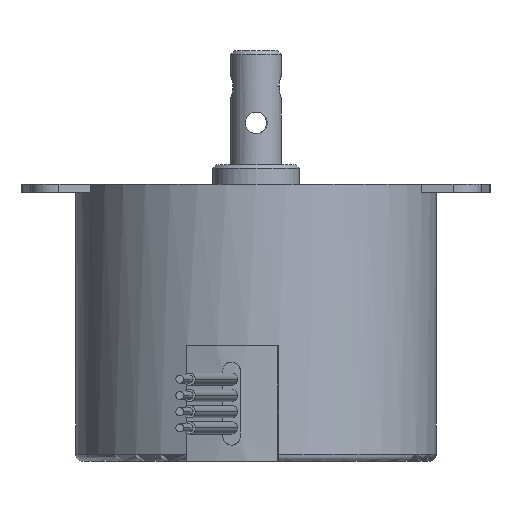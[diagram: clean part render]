
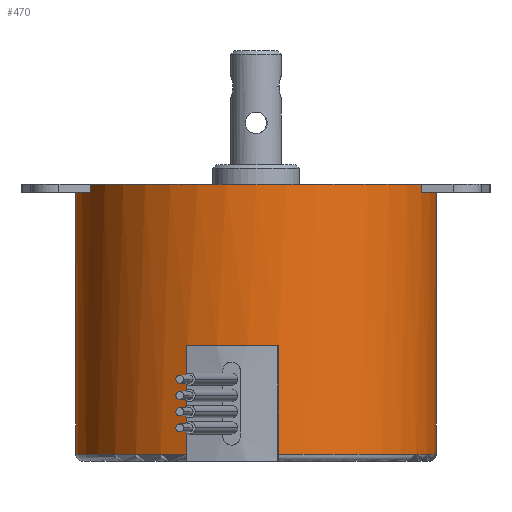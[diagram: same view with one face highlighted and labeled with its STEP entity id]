
A CAD part, front view. The second image highlights one B-rep face of the part: STEP entity #470.
In plain terms, the highlighted cylindrical face has radius 25 mm (diameter 50 mm), a partial arc.
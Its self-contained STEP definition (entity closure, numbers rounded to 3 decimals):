
#151 = ORIENTED_EDGE ( 'NONE', *, *, #277, .T. ) ;
#277 = EDGE_CURVE ( 'NONE', #351, #536, #1877, .T. ) ;
#339 = ORIENTED_EDGE ( 'NONE', *, *, #378, .T. ) ;
#340 = ORIENTED_EDGE ( 'NONE', *, *, #341, .T. ) ;
#341 = EDGE_CURVE ( 'NONE', #376, #342, #2206, .T. ) ;
#342 = VERTEX_POINT ( 'NONE', #2201 ) ;
#343 = ORIENTED_EDGE ( 'NONE', *, *, #344, .T. ) ;
#344 = EDGE_CURVE ( 'NONE', #342, #345, #2200, .T. ) ;
#345 = VERTEX_POINT ( 'NONE', #2196 ) ;
#346 = ORIENTED_EDGE ( 'NONE', *, *, #347, .F. ) ;
#347 = EDGE_CURVE ( 'NONE', #348, #345, #2195, .T. ) ;
#348 = VERTEX_POINT ( 'NONE', #2190 ) ;
#349 = ORIENTED_EDGE ( 'NONE', *, *, #350, .F. ) ;
#350 = EDGE_CURVE ( 'NONE', #351, #348, #2189, .T. ) ;
#351 = VERTEX_POINT ( 'NONE', #2185 ) ;
#376 = VERTEX_POINT ( 'NONE', #2071 ) ;
#378 = EDGE_CURVE ( 'NONE', #595, #376, #2069, .T. ) ;
#470 = ADVANCED_FACE ( 'NONE', ( #2255 ), #2690, .T. ) ;
#471 = EDGE_LOOP ( 'NONE', ( #472, #473, #476, #479, #482, #485, #339, #340, #343, #346, #349, #151 ) ) ;
#472 = ORIENTED_EDGE ( 'NONE', *, *, #535, .F. ) ;
#473 = ORIENTED_EDGE ( 'NONE', *, *, #474, .T. ) ;
#474 = EDGE_CURVE ( 'NONE', #592, #475, #2512, .T. ) ;
#475 = VERTEX_POINT ( 'NONE', #2507 ) ;
#476 = ORIENTED_EDGE ( 'NONE', *, *, #477, .F. ) ;
#477 = EDGE_CURVE ( 'NONE', #478, #475, #2506, .T. ) ;
#478 = VERTEX_POINT ( 'NONE', #2502 ) ;
#479 = ORIENTED_EDGE ( 'NONE', *, *, #480, .T. ) ;
#480 = EDGE_CURVE ( 'NONE', #478, #481, #2664, .T. ) ;
#481 = VERTEX_POINT ( 'NONE', #2659 ) ;
#482 = ORIENTED_EDGE ( 'NONE', *, *, #483, .T. ) ;
#483 = EDGE_CURVE ( 'NONE', #481, #484, #2658, .T. ) ;
#484 = VERTEX_POINT ( 'NONE', #2654 ) ;
#485 = ORIENTED_EDGE ( 'NONE', *, *, #486, .T. ) ;
#486 = EDGE_CURVE ( 'NONE', #484, #595, #2653, .T. ) ;
#535 = EDGE_CURVE ( 'NONE', #592, #536, #2702, .T. ) ;
#536 = VERTEX_POINT ( 'NONE', #2698 ) ;
#592 = VERTEX_POINT ( 'NONE', #2718 ) ;
#595 = VERTEX_POINT ( 'NONE', #2712 ) ;
#1845 = DIRECTION ( 'NONE',  ( -1., 0., 0. ) ) ;
#1846 = DIRECTION ( 'NONE',  ( 0., 0., -1. ) ) ;
#1847 = CARTESIAN_POINT ( 'NONE',  ( 0., 0., -1.118 ) ) ;
#1848 = AXIS2_PLACEMENT_3D ( 'NONE', #1847, #1846, #1845 ) ;
#1877 = CIRCLE ( 'NONE', #1848, 25. ) ;
#2066 = DIRECTION ( 'NONE',  ( 0., 0., 1. ) ) ;
#2067 = VECTOR ( 'NONE', #2066, 1000. ) ;
#2068 = CARTESIAN_POINT ( 'NONE',  ( 25., 0., -38.4 ) ) ;
#2069 = LINE ( 'NONE', #2068, #2067 ) ;
#2071 = CARTESIAN_POINT ( 'NONE',  ( 25., 0., -1.118 ) ) ;
#2185 = CARTESIAN_POINT ( 'NONE',  ( -22.93, -9.961, -1.118 ) ) ;
#2186 = DIRECTION ( 'NONE',  ( 0., 0., 1. ) ) ;
#2187 = VECTOR ( 'NONE', #2186, 1000. ) ;
#2188 = CARTESIAN_POINT ( 'NONE',  ( -22.93, -9.961, -1.118 ) ) ;
#2189 = LINE ( 'NONE', #2188, #2187 ) ;
#2190 = CARTESIAN_POINT ( 'NONE',  ( -22.93, -9.961, 0. ) ) ;
#2191 = DIRECTION ( 'NONE',  ( 1., 0., 0. ) ) ;
#2192 = DIRECTION ( 'NONE',  ( 0., 0., 1. ) ) ;
#2193 = CARTESIAN_POINT ( 'NONE',  ( 0., 0., 0. ) ) ;
#2194 = AXIS2_PLACEMENT_3D ( 'NONE', #2193, #2192, #2191 ) ;
#2195 = CIRCLE ( 'NONE', #2194, 25. ) ;
#2196 = CARTESIAN_POINT ( 'NONE',  ( 22.93, -9.961, 0. ) ) ;
#2197 = DIRECTION ( 'NONE',  ( 0., 0., 1. ) ) ;
#2198 = VECTOR ( 'NONE', #2197, 1000. ) ;
#2199 = CARTESIAN_POINT ( 'NONE',  ( 22.93, -9.961, -1.118 ) ) ;
#2200 = LINE ( 'NONE', #2199, #2198 ) ;
#2201 = CARTESIAN_POINT ( 'NONE',  ( 22.93, -9.961, -1.118 ) ) ;
#2202 = DIRECTION ( 'NONE',  ( 1., 0., 0. ) ) ;
#2203 = DIRECTION ( 'NONE',  ( 0., 0., -1. ) ) ;
#2204 = CARTESIAN_POINT ( 'NONE',  ( 0., 0., -1.118 ) ) ;
#2205 = AXIS2_PLACEMENT_3D ( 'NONE', #2204, #2203, #2202 ) ;
#2206 = CIRCLE ( 'NONE', #2205, 25. ) ;
#2255 = FACE_OUTER_BOUND ( 'NONE', #471, .T. ) ;
#2502 = CARTESIAN_POINT ( 'NONE',  ( -9.461, -23.14, -22.4 ) ) ;
#2503 = DIRECTION ( 'NONE',  ( 0., 0., -1. ) ) ;
#2504 = VECTOR ( 'NONE', #2503, 1000. ) ;
#2505 = CARTESIAN_POINT ( 'NONE',  ( -9.461, -23.14, -22.4 ) ) ;
#2506 = LINE ( 'NONE', #2505, #2504 ) ;
#2507 = CARTESIAN_POINT ( 'NONE',  ( -9.461, -23.14, -37.4 ) ) ;
#2508 = DIRECTION ( 'NONE',  ( 1., 0., 0. ) ) ;
#2509 = DIRECTION ( 'NONE',  ( 0., 0., 1. ) ) ;
#2510 = CARTESIAN_POINT ( 'NONE',  ( 0., 0., -37.4 ) ) ;
#2511 = AXIS2_PLACEMENT_3D ( 'NONE', #2510, #2509, #2508 ) ;
#2512 = CIRCLE ( 'NONE', #2511, 25. ) ;
#2513 = DIRECTION ( 'NONE',  ( 1., 0., 0. ) ) ;
#2514 = DIRECTION ( 'NONE',  ( 0., 0., 1. ) ) ;
#2649 = DIRECTION ( 'NONE',  ( 1., 0., 0. ) ) ;
#2650 = DIRECTION ( 'NONE',  ( 0., 0., 1. ) ) ;
#2651 = CARTESIAN_POINT ( 'NONE',  ( 0., 0., -37.4 ) ) ;
#2652 = AXIS2_PLACEMENT_3D ( 'NONE', #2651, #2650, #2649 ) ;
#2653 = CIRCLE ( 'NONE', #2652, 25. ) ;
#2654 = CARTESIAN_POINT ( 'NONE',  ( 3.15, -24.801, -37.4 ) ) ;
#2655 = DIRECTION ( 'NONE',  ( 0., 0., -1. ) ) ;
#2656 = VECTOR ( 'NONE', #2655, 1000. ) ;
#2657 = CARTESIAN_POINT ( 'NONE',  ( 3.15, -24.801, -22.4 ) ) ;
#2658 = LINE ( 'NONE', #2657, #2656 ) ;
#2659 = CARTESIAN_POINT ( 'NONE',  ( 3.15, -24.801, -22.4 ) ) ;
#2660 = DIRECTION ( 'NONE',  ( -1., 0., 0. ) ) ;
#2661 = DIRECTION ( 'NONE',  ( 0., 0., 1. ) ) ;
#2662 = CARTESIAN_POINT ( 'NONE',  ( 0., 0., -22.4 ) ) ;
#2663 = AXIS2_PLACEMENT_3D ( 'NONE', #2662, #2661, #2660 ) ;
#2664 = CIRCLE ( 'NONE', #2663, 25. ) ;
#2688 = CARTESIAN_POINT ( 'NONE',  ( 0., 0., -38.4 ) ) ;
#2689 = AXIS2_PLACEMENT_3D ( 'NONE', #2688, #2514, #2513 ) ;
#2690 = CYLINDRICAL_SURFACE ( 'NONE', #2689, 25. ) ;
#2698 = CARTESIAN_POINT ( 'NONE',  ( -25., 0., -1.118 ) ) ;
#2699 = DIRECTION ( 'NONE',  ( 0., 0., 1. ) ) ;
#2700 = VECTOR ( 'NONE', #2699, 1000. ) ;
#2701 = CARTESIAN_POINT ( 'NONE',  ( -25., 0., -38.4 ) ) ;
#2702 = LINE ( 'NONE', #2701, #2700 ) ;
#2712 = CARTESIAN_POINT ( 'NONE',  ( 25., 0., -37.4 ) ) ;
#2718 = CARTESIAN_POINT ( 'NONE',  ( -25., 0., -37.4 ) ) ;
